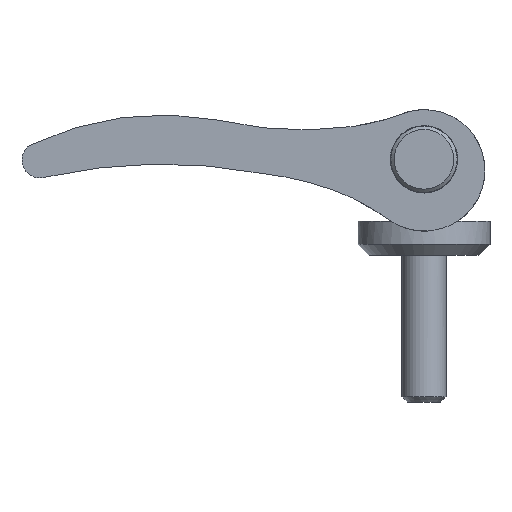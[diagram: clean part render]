
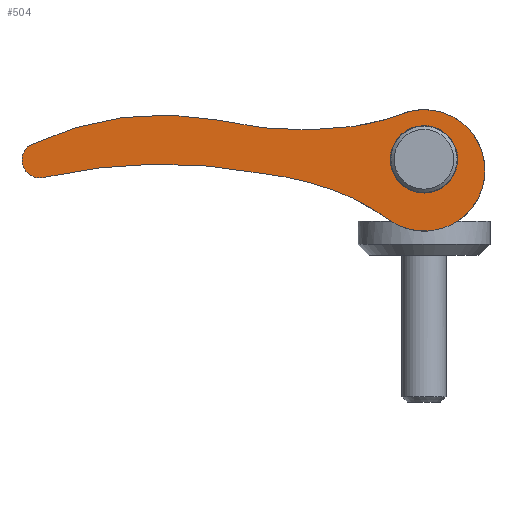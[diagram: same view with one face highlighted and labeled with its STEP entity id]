
A CAD part, front view. The second image highlights one B-rep face of the part: STEP entity #504.
In plain terms, the highlighted planar face has unit normal (0, -1, 0).
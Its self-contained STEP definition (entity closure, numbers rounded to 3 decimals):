
#504=ADVANCED_FACE('',(#925,#927),#929,.F.);
#925=FACE_BOUND('',#926,.T.);
#926=EDGE_LOOP('',(#1225,#1226,#1227,#1228,#1229,#1230,#1231,#1232,#1233,#1234));
#927=FACE_BOUND('',#928,.T.);
#928=EDGE_LOOP('',(#1235));
#929=PLANE('',#930);
#930=AXIS2_PLACEMENT_3D('',#931,#932,#933);
#931=CARTESIAN_POINT('',(0.,0.,0.));
#932=DIRECTION('',(0.,1.,0.));
#933=DIRECTION('',(-1.,0.,0.));
#1225=ORIENTED_EDGE('',*,*,#1406,.F.);
#1226=ORIENTED_EDGE('',*,*,#1407,.F.);
#1227=ORIENTED_EDGE('',*,*,#1408,.F.);
#1228=ORIENTED_EDGE('',*,*,#1409,.F.);
#1229=ORIENTED_EDGE('',*,*,#1410,.F.);
#1230=ORIENTED_EDGE('',*,*,#1382,.F.);
#1231=ORIENTED_EDGE('',*,*,#1379,.F.);
#1232=ORIENTED_EDGE('',*,*,#1369,.F.);
#1233=ORIENTED_EDGE('',*,*,#1404,.F.);
#1234=ORIENTED_EDGE('',*,*,#1411,.F.);
#1235=ORIENTED_EDGE('',*,*,#1392,.T.);
#1369=EDGE_CURVE('',#1509,#1511,#1512,.T.);
#1379=EDGE_CURVE('',#1511,#1529,#1530,.T.);
#1382=EDGE_CURVE('',#1529,#1533,#1534,.T.);
#1392=EDGE_CURVE('',#1552,#1552,#1553,.T.);
#1404=EDGE_CURVE('',#1571,#1509,#1572,.T.);
#1406=EDGE_CURVE('',#1574,#1575,#1576,.F.);
#1407=EDGE_CURVE('',#1577,#1574,#1578,.T.);
#1408=EDGE_CURVE('',#1579,#1577,#1580,.T.);
#1409=EDGE_CURVE('',#1581,#1579,#1582,.T.);
#1410=EDGE_CURVE('',#1533,#1581,#1583,.T.);
#1411=EDGE_CURVE('',#1575,#1571,#1584,.T.);
#1509=VERTEX_POINT('',#2130);
#1511=VERTEX_POINT('',#2134);
#1512=CIRCLE('',#2135,20.005);
#1529=VERTEX_POINT('',#2228);
#1530=CIRCLE('',#2229,5.5);
#1533=VERTEX_POINT('',#2285);
#1534=CIRCLE('',#2286,19.991);
#1552=VERTEX_POINT('',#2504);
#1553=CIRCLE('',#2505,3.05);
#1571=VERTEX_POINT('',#2555);
#1572=CIRCLE('',#2556,33.);
#1574=VERTEX_POINT('',#2563);
#1575=VERTEX_POINT('',#2564);
#1576=CIRCLE('',#2565,1.);
#1577=VERTEX_POINT('',#2569);
#1578=CIRCLE('',#2570,1.62);
#1579=VERTEX_POINT('',#2574);
#1580=CIRCLE('',#2575,1.996);
#1581=VERTEX_POINT('',#2579);
#1582=CIRCLE('',#2580,48.246);
#1583=CIRCLE('',#2584,28.);
#1584=CIRCLE('',#2588,27.504);
#2130=CARTESIAN_POINT('',(-6.364,0.,3.075));
#2134=CARTESIAN_POINT('',(-1.889,0.,4.15));
#2135=AXIS2_PLACEMENT_3D('',#2136,#2137,#2138);
#2136=CARTESIAN_POINT('',(-8.766,0.,22.935));
#2137=DIRECTION('',(0.,-1.,0.));
#2138=DIRECTION('',(0.12,0.,-0.993));
#2228=CARTESIAN_POINT('',(-3.325,0.,-5.395));
#2229=AXIS2_PLACEMENT_3D('',#2230,#2231,#2232);
#2230=CARTESIAN_POINT('',(0.002,0.,-1.015));
#2231=DIRECTION('',(0.,1.,0.));
#2232=DIRECTION('',(-0.344,0.,0.939));
#2285=CARTESIAN_POINT('',(-8.314,0.,-2.627));
#2286=AXIS2_PLACEMENT_3D('',#2287,#2288,#2289);
#2287=CARTESIAN_POINT('',(-15.417,0.,-21.314));
#2288=DIRECTION('',(0.,-1.,0.));
#2289=DIRECTION('',(0.605,0.,0.796));
#2504=CARTESIAN_POINT('',(-3.05,0.,-0.015));
#2505=AXIS2_PLACEMENT_3D('',#2506,#2507,#2508);
#2506=CARTESIAN_POINT('',(0.,0.,-0.015));
#2507=DIRECTION('',(0.,1.,0.));
#2508=DIRECTION('',(-1.,0.,0.));
#2555=CARTESIAN_POINT('',(-18.505,0.,3.866));
#2556=AXIS2_PLACEMENT_3D('',#2557,#2558,#2559);
#2557=CARTESIAN_POINT('',(-10.326,0.,35.836));
#2558=DIRECTION('',(0.,-1.,0.));
#2559=DIRECTION('',(-0.248,0.,-0.969));
#2563=CARTESIAN_POINT('',(-35.844,0.,1.757));
#2564=CARTESIAN_POINT('',(-35.594,0.,1.922));
#2565=AXIS2_PLACEMENT_3D('',#2566,#2567,#2568);
#2566=CARTESIAN_POINT('',(-35.175,0.,1.014));
#2567=DIRECTION('',(0.,-1.,0.));
#2568=DIRECTION('',(-0.418,0.,0.908));
#2569=CARTESIAN_POINT('',(-34.35,0.,-1.015));
#2570=AXIS2_PLACEMENT_3D('',#2571,#2572,#2573);
#2571=CARTESIAN_POINT('',(-34.76,0.,0.552));
#2572=DIRECTION('',(0.,1.,0.));
#2573=DIRECTION('',(0.253,0.,-0.967));
#2574=CARTESIAN_POINT('',(-34.245,0.,-0.991));
#2575=AXIS2_PLACEMENT_3D('',#2576,#2577,#2578);
#2576=CARTESIAN_POINT('',(-33.844,0.,-2.946));
#2577=DIRECTION('',(0.,-1.,0.));
#2578=DIRECTION('',(-0.201,0.,0.98));
#2579=CARTESIAN_POINT('',(-14.666,0.,-1.032));
#2580=AXIS2_PLACEMENT_3D('',#2581,#2582,#2583);
#2581=CARTESIAN_POINT('',(-24.555,0.,-48.254));
#2582=DIRECTION('',(0.,-1.,0.));
#2583=DIRECTION('',(0.205,0.,0.979));
#2584=AXIS2_PLACEMENT_3D('',#2585,#2586,#2587);
#2585=CARTESIAN_POINT('',(-18.263,0.,-28.8));
#2586=DIRECTION('',(0.,-1.,0.));
#2587=DIRECTION('',(0.355,0.,0.935));
#2588=AXIS2_PLACEMENT_3D('',#2589,#2590,#2591);
#2589=CARTESIAN_POINT('',(-24.097,0.,-23.063));
#2590=DIRECTION('',(0.,1.,0.));
#2591=DIRECTION('',(-0.418,0.,0.908));
